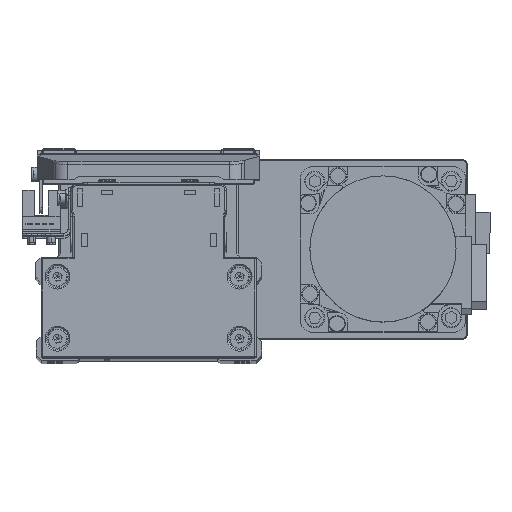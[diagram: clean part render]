
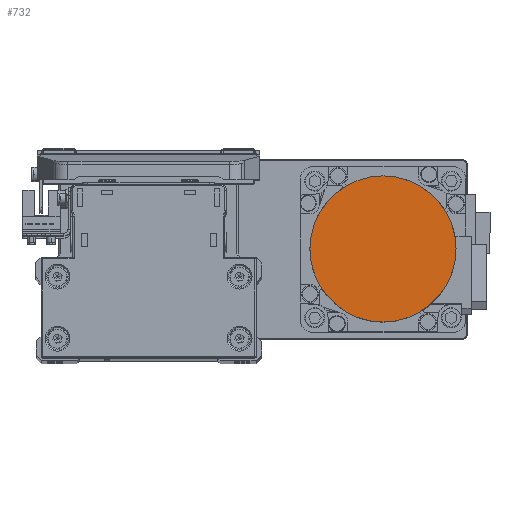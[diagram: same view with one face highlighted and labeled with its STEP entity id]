
A CAD part, top view. The second image highlights one B-rep face of the part: STEP entity #732.
In plain terms, the highlighted planar face has unit normal (0, 0, 1) as drawn and (0, 0, -1) by its records, which use the part's own axes.
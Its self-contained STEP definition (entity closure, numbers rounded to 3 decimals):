
#732 = ADVANCED_FACE ( 'NONE', ( #26732 ), #39349, .F. ) ;
#6724 = EDGE_LOOP ( 'NONE', ( #9608, #8869 ) ) ;
#7912 = EDGE_CURVE ( 'NONE', #31929, #37020, #17269, .T. ) ;
#8757 = DIRECTION ( 'NONE',  ( 1., 0., 0. ) ) ;
#8869 = ORIENTED_EDGE ( 'NONE', *, *, #7912, .F. ) ;
#8996 = EDGE_CURVE ( 'NONE', #37020, #31929, #32698, .T. ) ;
#9608 = ORIENTED_EDGE ( 'NONE', *, *, #8996, .F. ) ;
#11009 = CARTESIAN_POINT ( 'NONE',  ( 0., 0., -109.7 ) ) ;
#13329 = CARTESIAN_POINT ( 'NONE',  ( 0., 0., -109.7 ) ) ;
#17269 = CIRCLE ( 'NONE', #40395, 26.5 ) ;
#23623 = DIRECTION ( 'NONE',  ( 0., 0., 1. ) ) ;
#24138 = AXIS2_PLACEMENT_3D ( 'NONE', #11009, #23623, #36241 ) ;
#24468 = CARTESIAN_POINT ( 'NONE',  ( 0., 0., -109.7 ) ) ;
#25945 = DIRECTION ( 'NONE',  ( 0., 0., 1. ) ) ;
#26732 = FACE_OUTER_BOUND ( 'NONE', #6724, .T. ) ;
#28556 = CARTESIAN_POINT ( 'NONE',  ( 26.5, 0., -109.7 ) ) ;
#30436 = CARTESIAN_POINT ( 'NONE',  ( -26.5, 0., -109.7 ) ) ;
#31929 = VERTEX_POINT ( 'NONE', #28556 ) ;
#32698 = CIRCLE ( 'NONE', #37975, 26.5 ) ;
#36241 = DIRECTION ( 'NONE',  ( 1., 0., 0. ) ) ;
#37020 = VERTEX_POINT ( 'NONE', #30436 ) ;
#37093 = DIRECTION ( 'NONE',  ( 0., 0., 1. ) ) ;
#37975 = AXIS2_PLACEMENT_3D ( 'NONE', #13329, #25945, #38561 ) ;
#38561 = DIRECTION ( 'NONE',  ( -1., 0., 0. ) ) ;
#39349 = PLANE ( 'NONE',  #24138 ) ;
#40395 = AXIS2_PLACEMENT_3D ( 'NONE', #24468, #37093, #8757 ) ;
